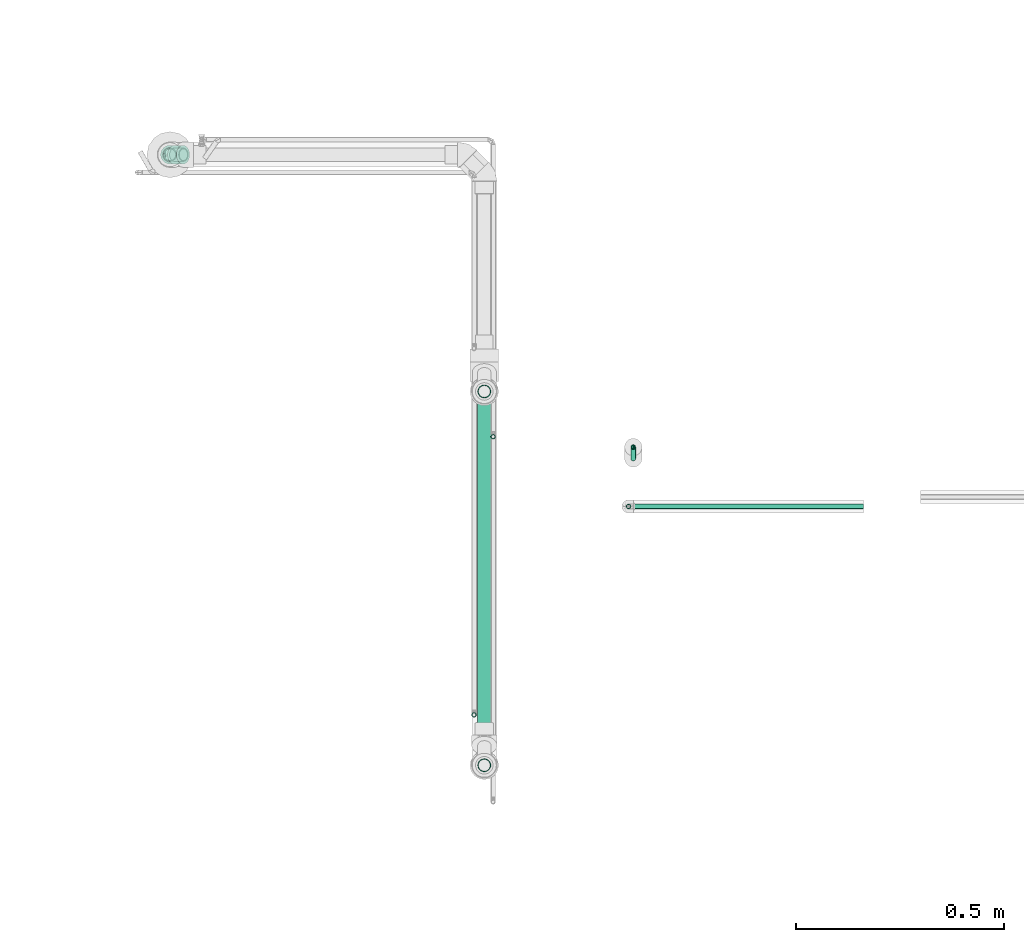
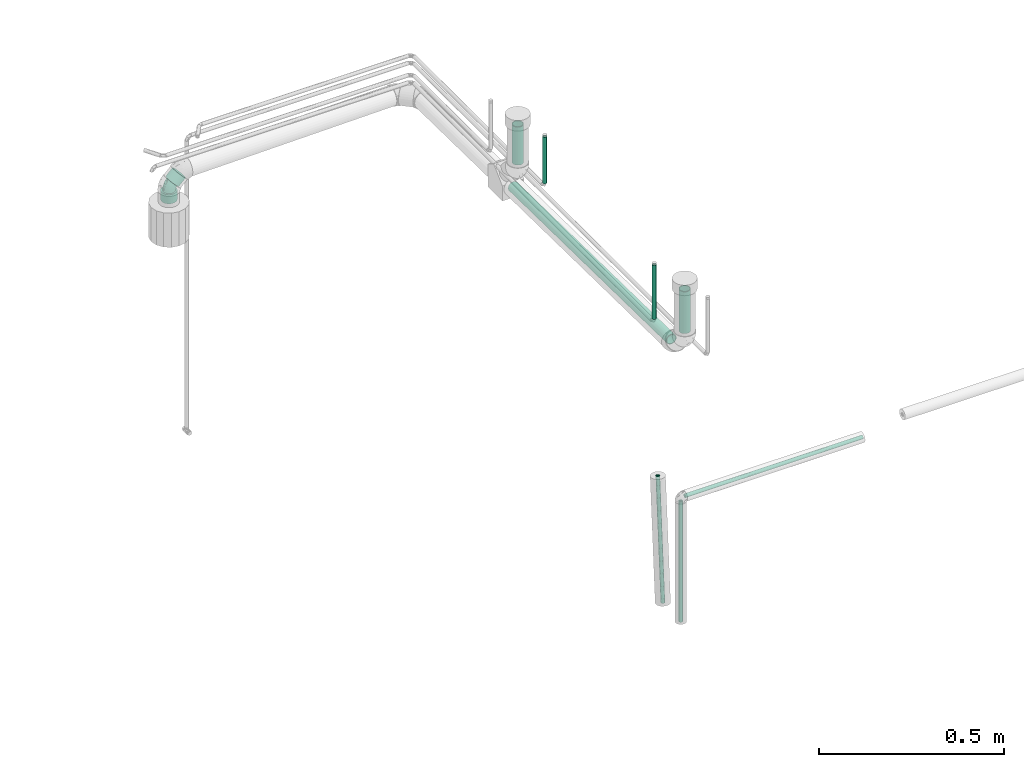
# One storey, part 48 of 108: 8 flow segments, 1 flow fitting.
"""IFC2X3 building model written with IfcOpenShell, lengths in millimetres."""

import ifcopenshell
import ifcopenshell.guid

model = None  # the IFC model being written
_history = None  # IfcOwnerHistory: only IFC2X3 demands one
_inside = {}  # id of a spatial element -> (the spatial element, [elements in it])
_under = {}  # id of a project, library or spatial element -> (it, [spatial elements below it])
_declared = {}  # id of a project -> (the project, [libraries it declares])
_typed = {}  # id of a type object -> (the type object, [elements of that type])
_made_of = {}  # id of a material, layer set ... -> (it, [elements and type objects made of it])


def new_model(schema):
    """Start an empty IFC model of exactly this schema.

    Asked for "IFC4X3", IfcOpenShell would pick the latest addendum, in which some entities
    have other attributes; the version numbers below select the first issue.
    IFC2X3 requires an IfcOwnerHistory on every rooted entity: one is made here for all.
    """
    global model, _history
    if schema == "IFC4X3":
        model = ifcopenshell.file(schema_version=(4, 3, 0, 0))
    else:
        model = ifcopenshell.file(schema=schema)
    _inside.clear()
    _under.clear()
    _declared.clear()
    _typed.clear()
    _made_of.clear()
    _history = None
    if model.schema == "IFC2X3":
        org = make("IfcOrganization", Name="unknown")
        user = make(
            "IfcPersonAndOrganization",
            ThePerson=make("IfcPerson", FamilyName="unknown"),
            TheOrganization=org,
        )
        app = make(
            "IfcApplication",
            ApplicationDeveloper=org,
            Version="unknown",
            ApplicationFullName="unknown",
            ApplicationIdentifier="unknown",
        )
        _history = make(
            "IfcOwnerHistory",
            OwningUser=user,
            OwningApplication=app,
            ChangeAction="ADDED",
            CreationDate=0,
        )
    return model


def make(cls, **values):
    """One entity of the class cls with the attributes given. An attribute that is None is left unset."""
    return model.create_entity(
        cls, **{name: value for name, value in values.items() if value is not None}
    )


def entity(cls, *values):
    """Any entity or typed value of the class cls, its attributes in the order of the schema. None: left unset."""
    e = model.create_entity(cls)
    for i, value in enumerate(values):
        if value is not None:
            e[i] = value
    return e


def rooted(cls, **values):
    """An entity with a GlobalId (a new one), such as an element, a storey or a relation."""
    return make(cls, GlobalId=ifcopenshell.guid.new(), OwnerHistory=_history, **values)


def si_unit(unit_type, name, prefix=None):
    """IfcSIUnit, for example si_unit("LENGTHUNIT", "METRE", prefix="MILLI")."""
    return make("IfcSIUnit", UnitType=unit_type, Prefix=prefix, Name=name)


def converted_unit(unit_type, name, factor, base, dimensions=None, offset=None):
    """IfcConversionBasedUnit, such as the inch: factor (a typed value) times the base unit."""
    return make(
        "IfcConversionBasedUnit"
        if offset is None
        else "IfcConversionBasedUnitWithOffset",
        ConversionOffset=offset,
        Dimensions=None
        if dimensions is None
        else entity("IfcDimensionalExponents", *dimensions),
        UnitType=unit_type,
        Name=name,
        ConversionFactor=make(
            "IfcMeasureWithUnit", ValueComponent=factor, UnitComponent=base
        ),
    )


def derived_unit(unit_type, elements):
    """IfcDerivedUnit: a product of units, each with its exponent."""
    return make(
        "IfcDerivedUnit",
        Elements=[
            make("IfcDerivedUnitElement", Unit=unit, Exponent=power)
            for unit, power in elements
        ],
        UnitType=unit_type,
    )


def assignment(units):
    """IfcUnitAssignment: the units of a project."""
    return None if units is None else make("IfcUnitAssignment", Units=units)


def point(xyz):
    """IfcCartesianPoint."""
    return None if xyz is None else make("IfcCartesianPoint", Coordinates=xyz)


def direction(xyz):
    """IfcDirection."""
    return None if xyz is None else make("IfcDirection", DirectionRatios=xyz)


def frame(location, z_axis=None, x_axis=None):
    """IfcAxis2Placement3D, a coordinate frame: its origin and axes. An axis left out is left unset."""
    return make(
        "IfcAxis2Placement3D",
        Location=point(location),
        Axis=direction(z_axis),
        RefDirection=direction(x_axis),
    )


def frame_2d(location, x_axis=None):
    """IfcAxis2Placement2D, a coordinate frame in the plane: its origin and x axis."""
    return make(
        "IfcAxis2Placement2D", Location=point(location), RefDirection=direction(x_axis)
    )


def origin_with_axes():
    """The frame at (0, 0, 0) with the z axis (0, 0, 1) and the x axis (1, 0, 0) written out."""
    return frame((0.0, 0.0, 0.0), z_axis=(0.0, 0.0, 1.0), x_axis=(1.0, 0.0, 0.0))


def origin_2d_with_axis():
    """The frame at (0, 0) in the plane with the x axis (1, 0) written out."""
    return frame_2d((0.0, 0.0), x_axis=(1.0, 0.0))


def place(relative_to, where):
    """IfcLocalPlacement: puts the frame where relative to a parent placement (None: the world)."""
    return make(
        "IfcLocalPlacement", PlacementRelTo=relative_to, RelativePlacement=where
    )


def context(
    kind, dimensions, precision=None, world=None, true_north=None, identifier=None
):
    """IfcGeometricRepresentationContext, for example the 3D "Model" context."""
    return make(
        "IfcGeometricRepresentationContext",
        ContextIdentifier=identifier,
        ContextType=kind,
        CoordinateSpaceDimension=dimensions,
        Precision=precision,
        WorldCoordinateSystem=world,
        TrueNorth=true_north,
    )


def subcontext(parent, identifier, kind, view, scale=None):
    """IfcGeometricRepresentationSubContext, for example "Body" below "Model"."""
    return make(
        "IfcGeometricRepresentationSubContext",
        ContextIdentifier=identifier,
        ContextType=kind,
        ParentContext=parent,
        TargetScale=scale,
        TargetView=view,
    )


def project(units=None, contexts=None):
    """IfcProject with its units and contexts."""
    return rooted(
        "IfcProject",
        Name="project",
        RepresentationContexts=contexts,
        UnitsInContext=assignment(units),
    )


def spatial(cls, under=None, at=None, **own):
    """A site, building, storey or space (cls), placed at a placement, below another one or the project."""
    s = rooted(cls, ObjectPlacement=at, **own)
    if under is not None:
        _under.setdefault(under.id(), (under, []))[1].append(s)
    return s


def profile(cls, at=None, kind="AREA", **sizes):
    """A parametric profile (cls). Its sizes go by their IFC names, for example OverallWidth=200.0."""
    return make(cls, ProfileType=kind, Position=at, **sizes)


def hollow_circle(**sizes):
    """IfcCircleHollowProfileDef."""
    return profile("IfcCircleHollowProfileDef", **sizes)


def extrude(swept, where, along, depth):
    """IfcExtrudedAreaSolid: the profile swept, set in the frame where, extruded along a direction by depth."""
    return make(
        "IfcExtrudedAreaSolid",
        SweptArea=swept,
        Position=where,
        ExtrudedDirection=direction(along),
        Depth=depth,
    )


def faces_of(points, faces, orient=None, outer=None):
    """IfcFace entities. A face is a list of loops; a loop is a list of indices into points, from 0.

    orient and outer hold one flag for each loop. By default every Orientation is true, the
    first loop of a face is its IfcFaceOuterBound and the others are IfcFaceBound.
    """
    made = []
    for i, loops in enumerate(faces):
        bounds = []
        for j, loop in enumerate(loops):
            is_outer = j == 0 if outer is None else outer[i][j]
            bounds.append(
                make(
                    "IfcFaceOuterBound" if is_outer else "IfcFaceBound",
                    Bound=make("IfcPolyLoop", Polygon=[points[k] for k in loop]),
                    Orientation=True if orient is None else orient[i][j],
                )
            )
        made.append(make("IfcFace", Bounds=bounds))
    return made


def open_shell(faces, orient=None, outer=None):
    """The faces of one IfcOpenShell. surface_model builds it on its shared points."""
    return ("IfcOpenShell", faces, orient, outer)


def surface_model(cls, points, shells):
    """IfcFaceBasedSurfaceModel or IfcShellBasedSurfaceModel (cls): surfaces that need not close."""
    shared = [point(p) for p in points]
    made = [make(c, CfsFaces=faces_of(shared, fs, o, b)) for c, fs, o, b in shells]
    if cls == "IfcFaceBasedSurfaceModel":
        return make(cls, FbsmFaces=made)
    return make(cls, SbsmBoundary=made)


def shape(context_of_items, identifier, shape_type, items):
    """IfcShapeRepresentation: the items that make up one representation, for example the "Body"."""
    return make(
        "IfcShapeRepresentation",
        ContextOfItems=context_of_items,
        RepresentationIdentifier=identifier,
        RepresentationType=shape_type,
        Items=items,
    )


def source(mapping_origin, context_of_items, identifier, shape_type, items):
    """IfcRepresentationMap: a shape defined once, which mapped items show again and again."""
    return make(
        "IfcRepresentationMap",
        MappingOrigin=mapping_origin,
        MappedRepresentation=shape(context_of_items, identifier, shape_type, items),
    )


def transform(
    local_origin,
    x_axis=None,
    y_axis=None,
    z_axis=None,
    scale=None,
    scale2=None,
    scale3=None,
    uniform=True,
):
    """IfcCartesianTransformationOperator3D, or its non-uniform kind. x_axis, y_axis, z_axis: its Axis1, 2, 3."""
    if uniform:
        return make(
            "IfcCartesianTransformationOperator3D",
            Axis1=direction(x_axis),
            Axis2=direction(y_axis),
            LocalOrigin=point(local_origin),
            Scale=scale,
            Axis3=direction(z_axis),
        )
    return make(
        "IfcCartesianTransformationOperator3DnonUniform",
        Axis1=direction(x_axis),
        Axis2=direction(y_axis),
        LocalOrigin=point(local_origin),
        Scale=scale,
        Axis3=direction(z_axis),
        Scale2=scale2,
        Scale3=scale3,
    )


def mapped(mapping_source, mapping_target):
    """IfcMappedItem: shows the shape of a source again, moved by a transform."""
    return make(
        "IfcMappedItem", MappingSource=mapping_source, MappingTarget=mapping_target
    )


def made_of(thing, what):
    """Note that an element or type object is made of a material, layer set ...; save() writes the relation."""
    if what is not None:
        _made_of.setdefault(what.id(), (what, []))[1].append(thing)
    return thing


def type_object(cls, material=None, **own):
    """A type object (cls), such as IfcWallType, which elements share."""
    return made_of(rooted(cls, **own), material)


def element(
    cls,
    number,
    at=None,
    inside=None,
    cuts=None,
    type_object=None,
    material=None,
    context=None,
    identifier="Body",
    shape_type=None,
    held_by="IfcProductDefinitionShape",
    body=None,
    shapes=None,
    **own,
):
    """One element of the class cls, such as IfcWall. Its Tag is "e" and its number.

    at: its placement. inside: the storey or other place that contains it. cuts: it is an
    opening in that element (IfcRelVoidsElement). A single representation is given by context,
    identifier, shape_type and body (its items); several are given by shapes. held_by: the class
    of the entity that holds the representations. save() writes the other relations.
    """
    e = rooted(cls, Tag="e%d" % number, ObjectPlacement=at, **own)
    if body is not None:
        shapes = [shape(context, identifier, shape_type, body)]
    if shapes is not None:
        e.Representation = make(held_by, Representations=shapes)
    if inside is not None:
        _inside.setdefault(inside.id(), (inside, []))[1].append(e)
    if cuts is not None:
        rooted(
            "IfcRelVoidsElement", RelatingBuildingElement=cuts, RelatedOpeningElement=e
        )
    if type_object is not None:
        _typed.setdefault(type_object.id(), (type_object, []))[1].append(e)
    return made_of(e, material)


def aggregate(whole, parts):
    """IfcRelAggregates: a whole, such as a stair, and the parts it consists of."""
    return rooted("IfcRelAggregates", RelatingObject=whole, RelatedObjects=parts)


def save(model, path):
    """Write the relations noted so far, then the file.

    IfcRelAggregates (storeys below a building ...), IfcRelContainedInSpatialStructure (elements
    in a storey), IfcRelDefinesByType, IfcRelAssociatesMaterial and IfcRelDeclares: one each for
    every whole, place, type object, material and project.
    """
    for whole, parts in _under.values():
        aggregate(whole, parts)
    for where, things in _inside.values():
        rooted(
            "IfcRelContainedInSpatialStructure",
            RelatedElements=things,
            RelatingStructure=where,
        )
    for kind, things in _typed.values():
        rooted("IfcRelDefinesByType", RelatedObjects=things, RelatingType=kind)
    for what, things in _made_of.values():
        rooted("IfcRelAssociatesMaterial", RelatedObjects=things, RelatingMaterial=what)
    for by, libraries in _declared.values():
        rooted("IfcRelDeclares", RelatingContext=by, RelatedDefinitions=libraries)
    model.write(path)


model = new_model("IFC2X3")

# Units and contexts
model_context = context("Model", 3, precision=0.01, world=frame((0.0, 4.29681676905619e-09, 0.0)), true_north=direction((4.01073788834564e-13, 1.0)))
plan_context = context("Plan", 3, precision=0.01, world=frame((0.0, 4.29681676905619e-09, 0.0)), true_north=direction((4.01073788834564e-13, 1.0)))
body_context = subcontext(model_context, "Body", "Model", "MODEL_VIEW")
ifc_project = project(units=[converted_unit("PLANEANGLEUNIT", "DEGREE", entity("IfcPositiveLengthMeasure", 0.0174532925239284), si_unit("PLANEANGLEUNIT", "RADIAN"), dimensions=[0, 0, 0, 0, 0, 0, 0]), si_unit("AREAUNIT", "SQUARE_METRE"), si_unit("LENGTHUNIT", "METRE", prefix="MILLI"), si_unit("MASSUNIT", "GRAM", prefix="KILO"), si_unit("POWERUNIT", "WATT"), si_unit("PRESSUREUNIT", "PASCAL", prefix="KILO"), si_unit("FORCEUNIT", "NEWTON", prefix="KILO"), si_unit("ELECTRICVOLTAGEUNIT", "VOLT"), si_unit("ELECTRICCURRENTUNIT", "AMPERE"), si_unit("THERMODYNAMICTEMPERATUREUNIT", "DEGREE_CELSIUS"), si_unit("TIMEUNIT", "SECOND"), si_unit("VOLUMEUNIT", "CUBIC_METRE"), derived_unit("LINEARVELOCITYUNIT", [(si_unit("LENGTHUNIT", "METRE"), 1), (si_unit("TIMEUNIT", "SECOND"), -1)]), derived_unit("VOLUMETRICFLOWRATEUNIT", [(si_unit("VOLUMEUNIT", "CUBIC_METRE"), 1), (si_unit("TIMEUNIT", "SECOND"), -1)]), derived_unit("THERMALTRANSMITTANCEUNIT", [(si_unit("POWERUNIT", "WATT"), 1), (si_unit("THERMODYNAMICTEMPERATUREUNIT", "KELVIN"), -1), (si_unit("AREAUNIT", "SQUARE_METRE"), -1)]), derived_unit("SOUNDPRESSUREUNIT", [(si_unit("PRESSUREUNIT", "PASCAL"), 1)])], contexts=[model_context, plan_context])

# Site, building, storey
site_placement = place(None, frame((0.0, -4.29681676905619e-09, 0.0), z_axis=(0.0, 0.0, 1.0), x_axis=(1.0, 0.0, 0.0)))
site = spatial("IfcSite", under=ifc_project, at=site_placement, CompositionType="ELEMENT")
building_placement = place(site_placement, frame((0.0, 4.29681676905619e-09, 0.0), z_axis=(0.0, 0.0, 1.0), x_axis=(1.0, 0.0, 0.0)))
building = spatial("IfcBuilding", under=site, at=building_placement, Name="mc-building", CompositionType="ELEMENT")
storey_placement = place(building_placement, frame((0.0, 0.0, 210200.0), z_axis=(0.0, 0.0, 1.0), x_axis=(1.0, 0.0, 0.0)))
storey = spatial("IfcBuildingStorey", under=building, at=storey_placement, Name="Nivå F - 0,7 m", CompositionType="ELEMENT", Elevation=210200.0)

# Flow fitting
pipe_fitting_type = type_object("IfcPipeFittingType", Name="magi_sewer_bend_001", PredefinedType="BEND")
shared_shape_1 = source(origin_with_axes(), body_context, "Body", "SurfaceModel", [
    surface_model("IfcShellBasedSurfaceModel", [(-44.58032, -11.3, -19.57217), (-44.58032, 5.84931, -21.82992), (-44.58032, -5.84931, -21.82992), (-44.58032, -15.98061, -15.98061), (-44.58032, 22.6, 0.0), (-44.58032, -21.82992, -5.84931), (-44.58032, -19.57217, -11.3), (-44.58032, 21.82992, -5.84931), (-44.58032, 0.0, -22.6), (-44.58032, 11.3, -19.57217), (-44.58032, 15.98061, -15.98061), (-44.58032, 19.57217, -11.3), (-44.58032, -21.82992, 5.84931), (-44.58032, -22.6, 0.0), (-44.58032, -19.57217, 11.3), (-44.58032, -15.98061, 15.98061), (-44.58032, 0.0, 22.6), (-44.58032, -11.3, 19.57217), (-44.58032, -5.84931, 21.82992), (-44.58032, 15.98061, 15.98061), (-44.58032, 19.57217, 11.3), (-44.58032, 21.82992, 5.84931), (-44.58032, 5.84931, 21.82992), (-44.58032, 11.3, 19.57217), (-14.58032, 0.0, 22.6), (-14.58032, -5.84931, 21.82992), (-14.58032, -11.3, 19.57217), (-14.58032, -15.98061, 15.98061), (-14.58032, -19.57217, 11.3), (-14.58032, -21.82992, 5.84931), (-14.58032, 22.6, 0.0), (-14.58032, 21.82992, -5.84931), (-14.58032, 5.84931, 21.82992), (-14.58032, 15.98061, 15.98061), (-14.58032, 11.3, 19.57217), (-14.58032, 19.57217, 11.3), (-14.58032, 21.82992, 5.84931), (-14.58032, -11.3, -19.57217), (-14.58032, -22.6, 0.0), (-14.58032, -21.82992, -5.84931), (-14.58032, -15.98061, -15.98061), (-14.58032, -19.57217, -11.3), (-14.58032, -5.84931, -21.82992), (-14.58032, 15.98061, -15.98061), (-14.58032, 19.57217, -11.3), (-14.58032, 11.3, -19.57217), (-14.58032, 5.84931, -21.82992), (-14.58032, 0.0, -22.6), (17.68343, 45.36266, 11.3), (15.54243, 47.50366, 0.0), (16.08696, 46.95913, 5.84931), (27.38696, 35.65913, 21.82992), (20.22305, 42.82304, 15.98061), (45.36266, 17.68343, -11.3), (23.53274, 39.51335, 19.57217), (20.22305, 42.82304, -15.98061), (16.08696, 46.95913, -5.84931), (17.68343, 45.36266, -11.3), (27.38696, 35.65913, -21.82992), (23.53274, 39.51335, -19.57217), (31.52304, 31.52304, -22.6), (31.52304, 31.52304, 22.6), (35.65913, 27.38696, 21.82992), (45.36266, 17.68343, 11.3), (39.51335, 23.53274, 19.57217), (42.82304, 20.22305, 15.98061), (46.95913, 16.08696, -5.84931), (46.95913, 16.08696, 5.84931), (47.50366, 15.54243, 0.0), (35.65913, 27.38696, -21.82992), (42.82304, 20.22305, -15.98061), (39.51335, 23.53274, -19.57217), (26.29046, -5.67077, 0.0), (25.74593, -5.12625, 5.84931), (24.14946, -3.52978, 11.3), (18.30015, 2.31953, 19.57217), (14.44593, 6.17375, 21.82992), (21.60984, -0.99016, 15.98061), (21.60984, -0.99016, -15.98061), (25.74593, -5.12625, -5.84931), (24.14946, -3.52978, -11.3), (14.44593, 6.17375, -21.82992), (18.30015, 2.31953, -19.57217), (10.30984, 10.30984, -22.6), (-0.99016, 21.60984, -15.98061), (10.30984, 10.30984, 22.6), (6.17375, 14.44593, 21.82992), (2.31953, 18.30015, 19.57217), (-0.99016, 21.60984, 15.98061), (-3.52978, 24.14946, 11.3), (-5.12625, 25.74593, -5.84931), (-5.12625, 25.74593, 5.84931), (6.17375, 14.44593, -21.82992), (2.31953, 18.30015, -19.57217), (-3.52978, 24.14946, -11.3), (-5.67077, 26.29046, 0.0), (-14.58032, 0.0, -17.6), (-14.58032, -12.44508, -12.44508), (-14.58032, 4.55522, -17.00029), (-14.58032, 8.8, -15.24205), (-14.58032, 15.24205, -8.8), (-14.58032, -17.6, 0.0), (-14.58032, 12.44508, -12.44508), (-14.58032, -8.8, 15.24205), (-14.58032, -8.8, -15.24205), (-14.58032, -4.55522, -17.00029), (-14.58032, -17.00029, -4.55522), (-14.58032, -15.24205, -8.8), (-14.58032, 17.00029, -4.55522), (-14.58032, 17.00029, 4.55522), (-14.58032, 17.6, 0.0), (-14.58032, 12.44508, 12.44508), (-14.58032, 15.24205, 8.8), (-14.58032, 4.55522, 17.00029), (-14.58032, 8.8, 15.24205), (-14.58032, -15.24205, 8.8), (-14.58032, -12.44508, 12.44508), (-14.58032, -17.00029, 4.55522), (-14.58032, -4.55522, 17.00029), (-14.58032, 0.0, 17.6), (-0.46791, 21.0876, -8.8), (10.30984, 10.30984, -17.6), (7.08882, 13.53086, -17.00029), (4.0873, 16.53238, -15.24205), (22.75492, -2.13524, 0.0), (1.50984, 19.10984, -12.44508), (-2.13524, 22.75492, 0.0), (16.53238, 4.0873, -15.24205), (21.0876, -0.46791, -8.8), (19.10984, 1.50984, -12.44508), (13.53086, 7.08882, -17.00029), (22.33087, -1.71118, -4.55522), (-1.71118, 22.33087, -4.55522), (1.50984, 19.10984, 12.44508), (-1.71118, 22.33087, 4.55522), (-0.46791, 21.0876, 8.8), (4.0873, 16.53238, 15.24205), (7.08882, 13.53086, 17.00029), (16.53238, 4.0873, 15.24205), (22.33087, -1.71118, 4.55522), (19.10984, 1.50984, 12.44508), (21.0876, -0.46791, 8.8), (10.30984, 10.30984, 17.6), (13.53086, 7.08882, 17.00029), (-6.97378, -6.45377, 16.0855), (-3.89373, -9.94711, 13.58085), (1.80713, -4.36279, 15.86374), (-5.68325, -13.46067, 10.30548), (13.5368, -5.49946, 10.30548), (-5.25281, -1.69457, 17.36683), (-6.76248, 7.32384, 16.45352), (-1.674, 4.04139, 17.53815), (-8.81841, 2.43885, 17.49319), (0.52241, 10.58075, 16.4271), (3.18167, 8.33105, 17.34401), (4.48261, -10.82198, 9.80795), (9.49472, 0.3677, 16.0855), (-7.25041, 17.50404, 7.23084), (-7.76155, 14.7602, 11.10678), (-4.99932, 12.06941, 14.36873), (1.51513, -14.79583, 3.11126), (8.04592, -12.19937, 3.11126), (5.20442, -12.56458, 6.12453), (-4.47747, -15.59042, 0.0), (-4.95962, -16.41653, 3.20637), (16.96175, -6.73263, 3.3851), (12.99832, -8.53544, 6.11203), (-7.04958, 18.8589, 3.69797), (-3.15574, -15.22667, 6.11203), (4.91254, 2.51606, 17.36683), (9.78695, -4.28039, 13.58085), (5.62537, -13.58084, 0.0), (14.19014, -7.85804, 0.0), (-7.84509, 18.93972, 0.0), (2.95412, -7.13189, 14.03502), (-5.25281, -1.69457, -17.36683), (9.39087, -11.53359, -3.11126), (2.93693, -14.31558, -3.11126), (5.20442, -12.56458, -6.12453), (4.91254, 2.51606, -17.36683), (-7.85112, 7.11232, -16.4271), (-8.14072, 3.64116, -17.34401), (-4.94879, 15.92528, -11.10678), (9.78695, -4.28039, -13.58085), (-7.25041, 17.50404, -7.23084), (12.99832, -8.53543, -6.11203), (-8.35045, 18.32006, -3.69797), (-0.39695, 9.96053, -16.45352), (-7.23308, -16.75446, -3.3851), (-3.15574, -15.22667, -6.11203), (4.48261, -10.82198, -9.80795), (13.5368, -5.49946, -10.30548), (-5.68325, -13.46067, -10.30548), (-3.89373, -9.94711, -13.58085), (2.95412, -7.13189, -14.03502), (-6.97378, -6.45377, -16.0855), (1.80713, -4.36279, -15.86374), (9.49472, 0.3677, -16.0855), (-1.674, 4.04139, -17.53815), (-4.99932, 12.06941, -14.36873), (15.11522, -8.10126, -3.20637), (4.51103, 7.96009, -17.49319)], [open_shell([[[0, 1, 2]], [[3, 4, 0]], [[4, 3, 5]], [[5, 3, 6]], [[4, 7, 0]], [[2, 1, 8]], [[0, 9, 1]], [[10, 7, 11]], [[7, 10, 9]], [[0, 7, 9]], [[12, 5, 13]], [[12, 14, 15]], [[12, 15, 16]], [[17, 18, 16]], [[17, 16, 15]], [[12, 16, 19]], [[4, 20, 21]], [[20, 4, 19]], [[19, 22, 23]], [[19, 4, 12]], [[16, 22, 19]], [[12, 4, 5]], [[24, 25, 26]], [[24, 26, 27]], [[27, 28, 29]], [[27, 29, 24]], [[30, 24, 31]], [[32, 33, 34]], [[32, 24, 33]], [[35, 30, 36]], [[30, 35, 33]], [[24, 30, 33]], [[24, 29, 31]], [[37, 38, 39]], [[40, 39, 41]], [[37, 31, 29]], [[37, 39, 40]], [[31, 37, 42]], [[31, 43, 44]], [[43, 31, 45]], [[42, 46, 45]], [[45, 31, 42]], [[47, 46, 42]], [[37, 29, 38]], [[31, 7, 30]], [[44, 11, 31]], [[9, 43, 45]], [[43, 10, 44]], [[31, 11, 7]], [[7, 4, 30]], [[8, 1, 46]], [[1, 9, 45]], [[10, 43, 9]], [[10, 11, 44]], [[46, 1, 45]], [[46, 47, 8]], [[2, 42, 37]], [[40, 0, 37]], [[6, 41, 39]], [[40, 41, 3]], [[5, 39, 38]], [[42, 2, 8]], [[37, 0, 2]], [[40, 3, 0]], [[41, 6, 3]], [[5, 6, 39]], [[38, 13, 5]], [[42, 8, 47]], [[29, 12, 38]], [[28, 14, 29]], [[17, 27, 26]], [[28, 27, 15]], [[18, 26, 25]], [[29, 14, 12]], [[12, 13, 38]], [[18, 24, 16]], [[18, 17, 26]], [[15, 27, 17]], [[15, 14, 28]], [[24, 18, 25]], [[22, 32, 34]], [[33, 23, 34]], [[20, 35, 36]], [[33, 35, 19]], [[21, 36, 30]], [[34, 23, 22]], [[22, 16, 32]], [[19, 23, 33]], [[35, 20, 19]], [[21, 20, 36]], [[30, 4, 21]], [[32, 16, 24]], [[48, 49, 50]], [[51, 48, 52]], [[48, 51, 53]], [[51, 52, 54]], [[53, 55, 48]], [[56, 55, 57]], [[56, 49, 48]], [[55, 58, 59]], [[55, 56, 48]], [[60, 58, 55]], [[61, 62, 51]], [[63, 62, 64]], [[63, 64, 65]], [[66, 63, 67]], [[62, 63, 53]], [[68, 66, 67]], [[69, 70, 71]], [[70, 69, 60]], [[60, 53, 70]], [[55, 53, 60]], [[63, 66, 53]], [[53, 51, 62]], [[72, 73, 74]], [[72, 74, 75]], [[75, 76, 72]], [[75, 74, 77]], [[72, 76, 78]], [[79, 78, 80]], [[79, 72, 78]], [[78, 81, 82]], [[81, 78, 83]], [[78, 84, 83]], [[78, 76, 84]], [[85, 86, 87]], [[87, 88, 76]], [[89, 84, 88]], [[84, 76, 88]], [[90, 89, 91]], [[92, 84, 93]], [[83, 84, 92]], [[84, 90, 94]], [[89, 90, 84]], [[91, 95, 90]], [[76, 85, 87]], [[92, 58, 83]], [[93, 59, 92]], [[57, 84, 94]], [[84, 55, 93]], [[92, 59, 58]], [[58, 60, 83]], [[49, 56, 90]], [[56, 57, 94]], [[55, 84, 57]], [[55, 59, 93]], [[90, 56, 94]], [[90, 95, 49]], [[50, 91, 89]], [[88, 48, 89]], [[54, 87, 86]], [[88, 87, 52]], [[51, 86, 85]], [[91, 50, 49]], [[89, 48, 50]], [[88, 52, 48]], [[87, 54, 52]], [[51, 54, 86]], [[85, 61, 51]], [[91, 49, 95]], [[76, 62, 85]], [[75, 64, 76]], [[63, 77, 74]], [[75, 77, 65]], [[67, 74, 73]], [[76, 64, 62]], [[62, 61, 85]], [[67, 72, 68]], [[67, 63, 74]], [[65, 77, 63]], [[65, 64, 75]], [[72, 67, 73]], [[66, 79, 80]], [[78, 53, 80]], [[71, 82, 81]], [[78, 82, 70]], [[69, 81, 83]], [[80, 53, 66]], [[66, 68, 79]], [[70, 53, 78]], [[82, 71, 70]], [[69, 71, 81]], [[83, 60, 69]], [[79, 68, 72]], [[96, 97, 98]], [[99, 98, 100]], [[100, 98, 101]], [[102, 99, 100]], [[100, 101, 103]], [[104, 97, 96]], [[96, 105, 104]], [[106, 101, 107]], [[97, 107, 101]], [[98, 97, 101]], [[103, 108, 100]], [[109, 110, 111]], [[112, 109, 111]], [[113, 114, 111]], [[110, 113, 111]], [[103, 113, 110]], [[115, 116, 117]], [[103, 117, 116]], [[118, 119, 103]], [[103, 101, 117]], [[103, 119, 113]], [[110, 108, 103]], [[120, 121, 122]], [[120, 122, 123]], [[121, 120, 124]], [[120, 123, 125]], [[126, 124, 120]], [[127, 128, 129]], [[127, 130, 121]], [[128, 124, 131]], [[124, 128, 127]], [[121, 124, 127]], [[120, 132, 126]], [[133, 126, 134]], [[133, 134, 135]], [[133, 136, 137]], [[137, 124, 133]], [[137, 138, 124]], [[139, 140, 141]], [[139, 124, 140]], [[138, 142, 143]], [[124, 138, 140]], [[137, 142, 138]], [[133, 124, 126]], [[144, 145, 146]], [[116, 147, 145]], [[103, 116, 145]], [[141, 140, 148]], [[119, 118, 149]], [[118, 103, 144]], [[114, 113, 150]], [[151, 152, 149]], [[119, 152, 113]], [[137, 153, 154]], [[145, 147, 155]], [[138, 143, 156]], [[157, 112, 158]], [[159, 111, 114]], [[160, 161, 162]], [[163, 160, 164]], [[165, 139, 166]], [[157, 167, 109]], [[115, 117, 168]], [[110, 109, 167]], [[109, 112, 157]], [[116, 115, 147]], [[150, 159, 114]], [[168, 162, 155]], [[101, 163, 164]], [[136, 133, 159]], [[142, 154, 169]], [[140, 138, 170]], [[135, 134, 157]], [[169, 143, 142]], [[160, 163, 171]], [[140, 170, 148]], [[151, 154, 153]], [[170, 138, 156]], [[115, 168, 147]], [[172, 165, 161]], [[139, 165, 124]], [[152, 150, 113]], [[167, 157, 134]], [[173, 167, 126]], [[148, 155, 166]], [[145, 174, 146]], [[146, 169, 149]], [[137, 136, 153]], [[146, 156, 169]], [[157, 158, 135]], [[151, 149, 169]], [[133, 135, 158]], [[159, 150, 153]], [[144, 149, 118]], [[112, 111, 158]], [[139, 141, 166]], [[155, 147, 168]], [[174, 155, 170]], [[155, 148, 170]], [[166, 141, 148]], [[111, 159, 158]], [[133, 158, 159]], [[159, 153, 136]], [[151, 153, 150]], [[145, 144, 103]], [[149, 144, 146]], [[169, 156, 143]], [[170, 156, 146]], [[169, 154, 151]], [[142, 137, 154]], [[149, 152, 119]], [[150, 152, 151]], [[160, 162, 168]], [[166, 155, 162]], [[160, 168, 164]], [[161, 160, 171]], [[172, 161, 171]], [[166, 162, 161]], [[168, 117, 164]], [[101, 164, 117]], [[155, 174, 145]], [[170, 146, 174]], [[126, 167, 134]], [[167, 173, 110]], [[161, 165, 166]], [[124, 165, 172]], [[105, 96, 175]], [[176, 177, 178]], [[121, 130, 179]], [[180, 181, 98]], [[100, 182, 102]], [[127, 129, 183]], [[184, 182, 100]], [[128, 131, 185]], [[108, 186, 184]], [[123, 122, 187]], [[188, 106, 189]], [[99, 180, 98]], [[163, 188, 177]], [[190, 191, 185]], [[106, 188, 101]], [[192, 97, 193]], [[97, 104, 193]], [[194, 190, 193]], [[106, 107, 189]], [[97, 192, 107]], [[195, 104, 105]], [[192, 190, 189]], [[196, 175, 179]], [[197, 179, 130]], [[110, 173, 186]], [[176, 172, 171]], [[126, 132, 186]], [[198, 179, 175]], [[125, 123, 199]], [[184, 100, 108]], [[120, 182, 184]], [[195, 193, 104]], [[187, 199, 123]], [[181, 175, 96]], [[199, 187, 180]], [[102, 199, 99]], [[172, 176, 200]], [[121, 201, 122]], [[197, 130, 127]], [[185, 178, 190]], [[129, 128, 191]], [[183, 196, 197]], [[183, 191, 190]], [[196, 195, 175]], [[124, 172, 200]], [[120, 125, 182]], [[201, 187, 122]], [[191, 183, 129]], [[183, 194, 196]], [[201, 179, 198]], [[198, 181, 180]], [[132, 184, 186]], [[128, 185, 191]], [[132, 120, 184]], [[190, 192, 193]], [[189, 107, 192]], [[125, 199, 182]], [[102, 182, 199]], [[199, 180, 99]], [[198, 180, 187]], [[175, 195, 105]], [[193, 195, 196]], [[183, 197, 127]], [[179, 197, 196]], [[175, 181, 198]], [[96, 98, 181]], [[179, 201, 121]], [[187, 201, 198]], [[176, 178, 185]], [[189, 190, 178]], [[176, 185, 200]], [[177, 176, 171]], [[163, 177, 171]], [[189, 178, 177]], [[185, 131, 200]], [[124, 200, 131]], [[190, 194, 183]], [[193, 196, 194]], [[110, 186, 108]], [[186, 173, 126]], [[177, 188, 189]], [[101, 188, 163]]])]),
])
flow_fitting_placement = place(storey_placement, frame((330364.34908, 462127.61957, 172.719459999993), z_axis=(0.0, 1.0, 0.0), x_axis=(0.0, 0.0, 1.0)))
element("IfcFlowFitting", 1, at=flow_fitting_placement, inside=storey, type_object=pipe_fitting_type, Name="magi_sewer_bend_001", context=body_context, shape_type="MappedRepresentation", body=[
    mapped(shared_shape_1, transform((0.0, 0.0, 0.0), scale=1.0)),
])

# Flow segments
pipe_segment_type_1 = type_object("IfcPipeSegmentType", Name="PP avløpsrør", PredefinedType="RIGIDSEGMENT")
shared_shape_2 = source(origin_with_axes(), body_context, "Body", "SweptSolid", [
    extrude(hollow_circle(Radius=16.0, WallThickness=2.0, at=origin_2d_with_axis()), frame((0.0, 0.0, 0.0), z_axis=(1.0, 0.0, 0.0), x_axis=(0.0, 1.0, 0.0)), (0.0, 0.0, 1.0), 852.1),
])
flow_segment_1_placement = place(storey_placement, frame((331121.18062, 461581.83609, 235.638100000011), z_axis=(0.0, 0.0166640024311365, 0.999861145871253), x_axis=(0.0, -0.999861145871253, 0.0166640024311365)))
element("IfcFlowSegment", 2, at=flow_segment_1_placement, inside=storey, type_object=pipe_segment_type_1, Name="PP avløpsrør", context=body_context, shape_type="MappedRepresentation", body=[
    mapped(shared_shape_2, transform((0.0, 0.0, 0.0), scale=1.0)),
])
shared_shape_3 = source(origin_with_axes(), body_context, "Body", "SweptSolid", [
    extrude(hollow_circle(Radius=16.0, WallThickness=2.0, at=origin_2d_with_axis()), frame((0.0, 0.0, 0.0), z_axis=(1.0, 0.0, 0.0), x_axis=(0.0, 1.0, 0.0)), (0.0, 0.0, 1.0), 137.7),
])
flow_segment_2_placement = place(storey_placement, frame((331121.18062, 460657.6, 322.66075000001), z_axis=(0.0, 1.0, 0.0), x_axis=(0.0, 0.0, 1.0)))
element("IfcFlowSegment", 3, at=flow_segment_2_placement, inside=storey, type_object=pipe_segment_type_1, Name="PP avløpsrør", context=body_context, shape_type="MappedRepresentation", body=[
    mapped(shared_shape_3, transform((0.0, 0.0, 0.0), scale=1.0)),
])
shared_shape_4 = source(origin_with_axes(), body_context, "Body", "SweptSolid", [
    extrude(hollow_circle(Radius=16.0, WallThickness=2.0, at=origin_2d_with_axis()), frame((0.0, 0.0, 0.0), z_axis=(1.0, 0.0, 0.0), x_axis=(0.0, 1.0, 0.0)), (0.0, 0.0, 1.0), 125.1),
])
flow_segment_3_placement = place(storey_placement, frame((331121.18062, 461557.6, 331.584009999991), z_axis=(1.0, 0.0, 0.0), x_axis=(0.0, 0.0, 1.0)))
element("IfcFlowSegment", 4, at=flow_segment_3_placement, inside=storey, type_object=pipe_segment_type_1, Name="PP avløpsrør", context=body_context, shape_type="MappedRepresentation", body=[
    mapped(shared_shape_4, transform((0.0, 0.0, 0.0), scale=1.0)),
])
pipe_segment_type_2 = type_object("IfcPipeSegmentType", Name="Kobberrør", PredefinedType="RIGIDSEGMENT")
shared_shape_5 = source(origin_with_axes(), body_context, "Body", "SweptSolid", [
    extrude(hollow_circle(Radius=6.0, WallThickness=2.0, at=origin_2d_with_axis()), frame((0.0, 0.0, 0.0), z_axis=(1.0, 0.0, 0.0), x_axis=(0.0, 1.0, 0.0)), (0.0, 0.0, 1.0), 153.0),
])
flow_segment_4_placement = place(storey_placement, frame((331142.38085, 461448.68691, 321.810120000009), z_axis=(1.0, 0.0, 0.0), x_axis=(0.0, 0.0, 1.0)))
element("IfcFlowSegment", 5, at=flow_segment_4_placement, inside=storey, type_object=pipe_segment_type_2, Name="Kobberrør", context=body_context, shape_type="MappedRepresentation", body=[
    mapped(shared_shape_5, transform((0.0, 0.0, 0.0), scale=1.0)),
])
shared_shape_6 = source(origin_with_axes(), body_context, "Body", "SweptSolid", [
    extrude(hollow_circle(Radius=6.0, WallThickness=2.0, at=origin_2d_with_axis()), frame((0.0, 0.0, 0.0), z_axis=(1.0, 0.0, 0.0), x_axis=(0.0, 1.0, 0.0)), (0.0, 0.0, 1.0), 177.3),
])
flow_segment_5_placement = place(storey_placement, frame((331096.4804, 460779.03657, 297.54501999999), z_axis=(1.0, 0.0, 0.0), x_axis=(0.0, 0.0, 1.0)))
element("IfcFlowSegment", 6, at=flow_segment_5_placement, inside=storey, type_object=pipe_segment_type_2, Name="Kobberrør", context=body_context, shape_type="MappedRepresentation", body=[
    mapped(shared_shape_6, transform((0.0, 0.0, 0.0), scale=1.0)),
])
shared_shape_7 = source(origin_with_axes(), body_context, "Body", "SweptSolid", [
    extrude(hollow_circle(Radius=6.0, WallThickness=2.0, at=origin_2d_with_axis()), frame((0.0, 0.0, 0.0), z_axis=(1.0, 0.0, 0.0), x_axis=(0.0, 1.0, 0.0)), (0.0, 0.0, 1.0), 402.0),
])
flow_segment_6_placement = place(storey_placement, frame((331479.82315, 461396.56933, -1146.10049000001), z_axis=(-1.0, 0.0, 0.0), x_axis=(0.0, 0.0674929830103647, 0.997719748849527)))
element("IfcFlowSegment", 7, at=flow_segment_6_placement, inside=storey, type_object=pipe_segment_type_2, Name="Kobberrør", context=body_context, shape_type="MappedRepresentation", body=[
    mapped(shared_shape_7, transform((0.0, 0.0, 0.0), scale=1.0)),
])
shared_shape_8 = source(origin_with_axes(), body_context, "Body", "SweptSolid", [
    extrude(hollow_circle(Radius=6.0, WallThickness=2.0, at=origin_2d_with_axis()), frame((0.0, 0.0, 0.0), z_axis=(1.0, 0.0, 0.0), x_axis=(0.0, 1.0, 0.0)), (0.0, 0.0, 1.0), 553.3),
])
flow_segment_7_placement = place(storey_placement, frame((332033.91668, 461280.75941, -725.773129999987), z_axis=(0.0, 0.0, 1.0), x_axis=(-1.0, 0.0, 0.0)))
element("IfcFlowSegment", 8, at=flow_segment_7_placement, inside=storey, type_object=pipe_segment_type_2, Name="Kobberrør", context=body_context, shape_type="MappedRepresentation", body=[
    mapped(shared_shape_8, transform((0.0, 0.0, 0.0), scale=1.0)),
])
shared_shape_9 = source(origin_with_axes(), body_context, "Body", "SweptSolid", [
    extrude(hollow_circle(Radius=6.0, WallThickness=2.0, at=origin_2d_with_axis()), frame((0.0, 0.0, 0.0), z_axis=(1.0, 0.0, 0.0), x_axis=(0.0, 1.0, 0.0)), (0.0, 0.0, 1.0), 396.0),
])
flow_segment_8_placement = place(storey_placement, frame((331468.60023, 461280.75941, -737.773129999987), z_axis=(0.0, 1.0, 0.0), x_axis=(0.0, 0.0, -1.0)))
element("IfcFlowSegment", 9, at=flow_segment_8_placement, inside=storey, type_object=pipe_segment_type_2, Name="Kobberrør", context=body_context, shape_type="MappedRepresentation", body=[
    mapped(shared_shape_9, transform((0.0, 0.0, 0.0), scale=1.0)),
])

save(model, "model.ifc")
